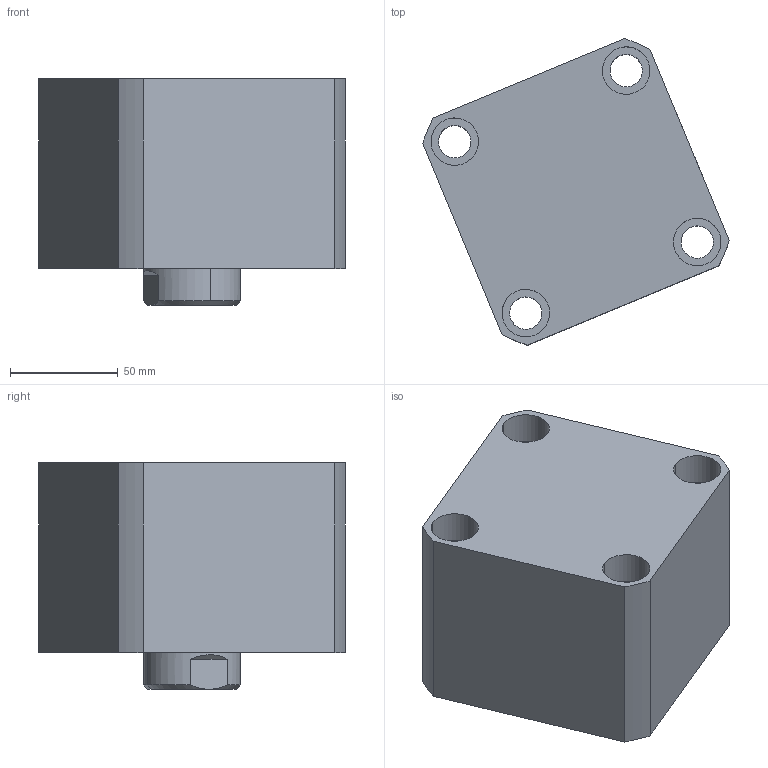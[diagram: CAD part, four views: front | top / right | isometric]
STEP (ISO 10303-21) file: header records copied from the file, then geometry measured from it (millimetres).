
FILE_DESCRIPTION (( 'STEP AP214' ), '1' );
FILE_NAME ('chtb-sd80x10n_asm.STEP', '2018-05-26T04:39:00', ( 'Windows' ), ( 'Microsoft' ), 'SwSTEP 2.0', 'SolidWorks 2015', '' );
FILE_SCHEMA (( 'AUTOMOTIVE_DESIGN' ));
Length unit declared in the file: millimetre
Products named in the file (4): CHTB-SD80X10NHSG; CHTB-SD80X10NBT; CHTB-SD80QG; chtb-sd80x10n_asm
Assembly tree (3 placements, depth 2):
  chtb-sd80x10n_asm
    CHTB-SD80QG
    CHTB-SD80X10NBT
    CHTB-SD80X10NHSG
Bounding box: 142.06 x 142.06 x 105 mm (x, y, z)
Volume: 992350.9 mm3; surface area: 160024.1 mm2
Topology: 3 solids, 3 shells, 192 faces, 510 edges, 341 vertices
Faces by surface type: cylinder 103, plane 37, cone 20, torus 18, bspline 14
Entity records: 15144 total; most frequent: CARTESIAN_POINT 10435, ORIENTED_EDGE 1008, DIRECTION 889, EDGE_CURVE 504, AXIS2_PLACEMENT_3D 374, VERTEX_POINT 341, EDGE_LOOP 229, FACE_OUTER_BOUND 192
